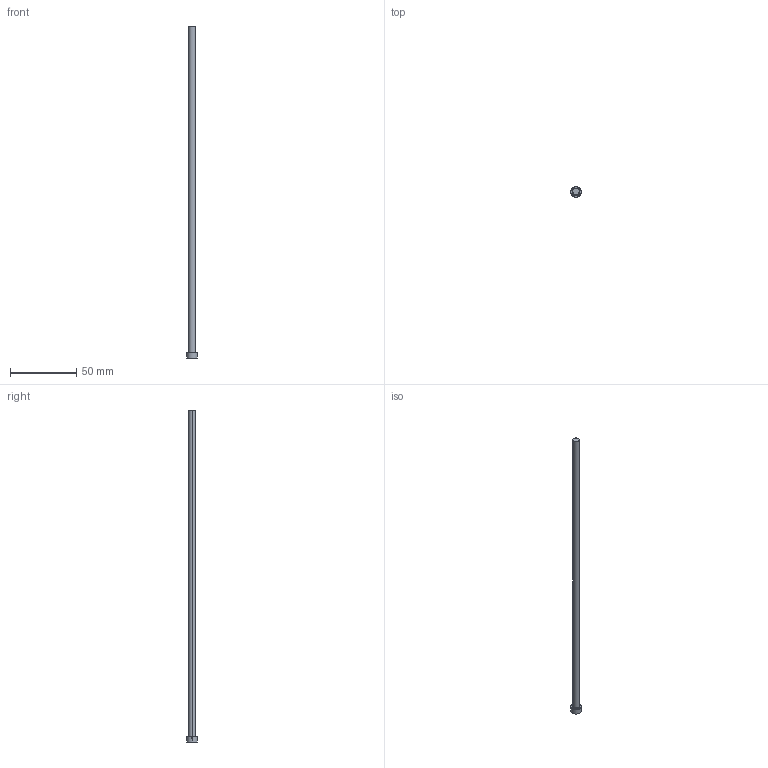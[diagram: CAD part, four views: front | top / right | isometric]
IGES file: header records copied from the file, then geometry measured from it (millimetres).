
Start section: SolidWorks IGES file using analytic representation for surfaces
Global section: file name: D:\Current\W1-2\EPHE-B\EPHE-B5-250.igs; native system: SolidWorks 2017; preprocessor: SolidWorks 2017; author: Ravi Kalvai; date: 240411.172808; units: millimetre
Bounding box: 8 x 8 x 250 mm (x, y, z)
Surface area: 4062 mm2 (no closed solid volume)
Topology: 0 solids, 0 shells, 9 faces, 152 edges, 152 vertices
Faces by surface type: bspline 5, revolution 4
